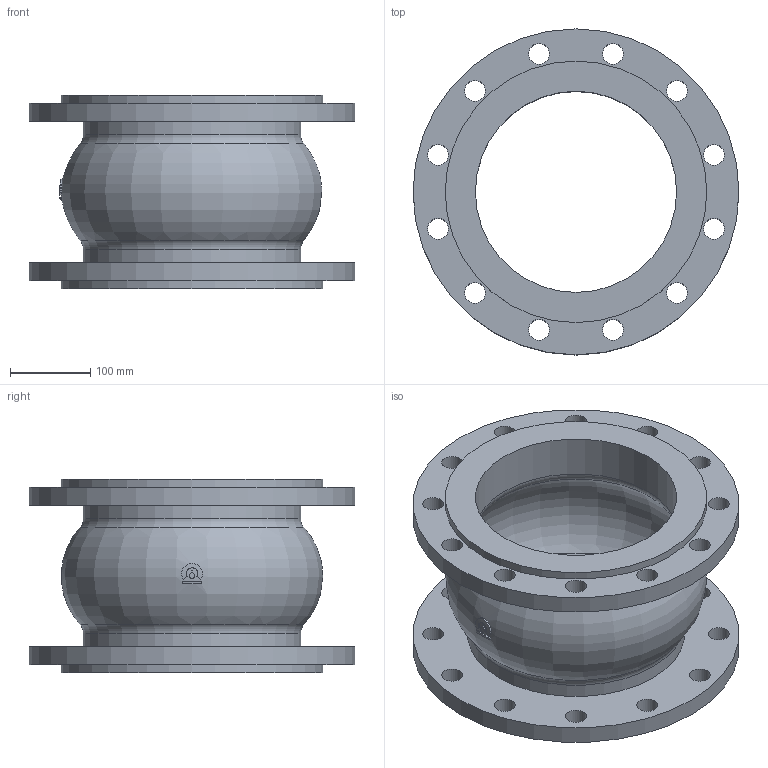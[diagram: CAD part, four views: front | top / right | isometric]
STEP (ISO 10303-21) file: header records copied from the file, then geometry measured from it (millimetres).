
FILE_DESCRIPTION(('STEP AP203'), '1');
FILE_NAME('Êîìïåíñàòîð KMS DN250 PN16_L240', '', ('UNSPECIFIED'), ('UNSPECIFIED'), 'ASCON STEP Converter 1.6', 'ASCON Math Kernel', '');
FILE_SCHEMA(('CONFIG_CONTROL_DESIGN'));
Length unit declared in the file: millimetre
Bounding box: 405 x 405 x 240 mm (x, y, z)
Volume: 5630105.9 mm3; surface area: 790126.4 mm2
Topology: 1 solids, 1 shells, 61 faces, 148 edges, 96 vertices
Faces by surface type: cylinder 39, plane 13, torus 9
Full cylindrical faces by diameter (mm): 26 x24, 250 x2, 270 x2, 325 x2, 405 x2
Entity records: 2969 total; most frequent: CARTESIAN_POINT 1036, DIRECTION 286, ORIENTED_EDGE 220, EDGE_LOOP 156, AXIS2_PLACEMENT_3D 136, EDGE_CURVE 110, VERTEX_POINT 96, FACE_BOUND 80
